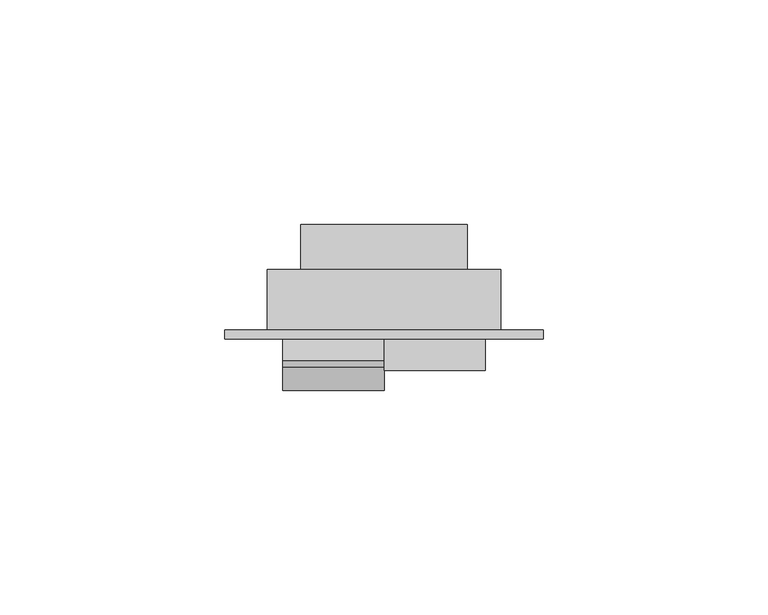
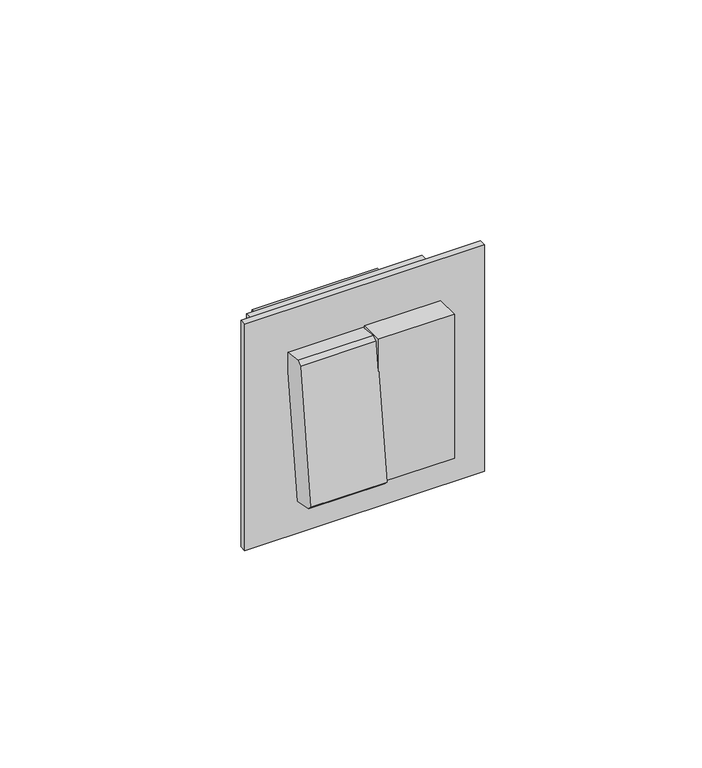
"""IFC4 building model written with IfcOpenShell, lengths in millimetres: proxy geometry."""

from ifc_helpers import new_model, si_unit, frame, origin, place, context, project, spatial, polyline, outline, extrude, faceted_brep, source, transform, mapped, element, save


def electrical_fixtures_25df590b(model_context):
    return source(origin(), model_context, "Body", "SolidModel", [
        extrude(outline(polyline([(22.5, -36.7), (22.5, -43.7), (0.0, -43.7), (0.0, -36.7), (22.5, -36.7)])), frame((0.0, 0.0, -22.5), z_axis=(0.0, 0.0, 1.0), x_axis=(1.0, 0.0, 0.0)), (0.0, 0.0, 1.0), 45.0),
        extrude(outline(polyline([(-46.907742, -20.7286385), (-48.1, -19.5363805), (-42.9449262, 21.5328885), (-41.5637479, 22.5), (-35.7515369, 21.7704429), (-41.2121425, -21.7329264), (-46.907742, -20.7286385)])), frame((-22.5, 0.0, 0.0), z_axis=(1.0, 0.0, 0.0), x_axis=(0.0, 1.0, 0.0)), (0.0, 0.0, 1.0), 22.5),
        faceted_brep([(35.45, -34.7, -35.45), (-35.45, -34.7, -35.45), (-35.45, -34.7, 35.45), (35.45, -34.7, 35.45), (-26.0, -34.7, -26.0), (26.0, -34.7, -26.0), (26.0, -34.7, 26.0), (-26.0, -34.7, 26.0), (35.45, -36.7, -35.45), (35.45, -36.7, 35.45), (-35.45, -36.7, 35.45), (-35.45, -36.7, -35.45), (26.0, -21.2, -26.0), (-26.0, -21.2, -26.0), (-26.0, -21.2, 26.0), (26.0, -21.2, 26.0), (-18.5, -21.2, -18.5), (18.5, -21.2, -18.5), (18.5, -21.2, 18.5), (-18.5, -21.2, 18.5), (18.5, -11.2, -18.5), (-18.5, -11.2, -18.5), (-18.5, -11.2, 18.5), (18.5, -11.2, 18.5)], [[[0, 1, 2, 3], [4, 5, 6, 7]], [[8, 9, 10, 11]], [[1, 0, 8, 11]], [[2, 1, 11, 10]], [[3, 2, 10, 9]], [[0, 3, 9, 8]], [[12, 13, 14, 15], [16, 17, 18, 19]], [[13, 12, 5, 4]], [[14, 13, 4, 7]], [[15, 14, 7, 6]], [[12, 15, 6, 5]], [[20, 21, 22, 23]], [[21, 20, 17, 16]], [[22, 21, 16, 19]], [[23, 22, 19, 18]], [[20, 23, 18, 17]]]),
    ])


if __name__ == "__main__":
    model = new_model("IFC4")
    model_context = context("Model", 3, world=origin())
    ifc_project = project(units=[si_unit("LENGTHUNIT", "METRE", prefix="MILLI")], contexts=[model_context])
    site = spatial("IfcSite", under=ifc_project)
    building = spatial("IfcBuilding", under=site)
    placement = place(None, origin())
    electrical_fixtures_shape = electrical_fixtures_25df590b(model_context)
    element("IfcBuildingElementProxy", 1, Name="Electrical Fixtures", at=placement, inside=building, context=model_context, shape_type="MappedRepresentation", body=[
        mapped(electrical_fixtures_shape, transform((0.0, 0.0, 0.0), x_axis=(1.0, 0.0, 0.0), y_axis=(0.0, 1.0, 0.0), z_axis=(0.0, 0.0, 1.0))),
    ])
    save(model, "model.ifc")
